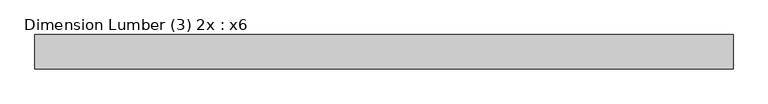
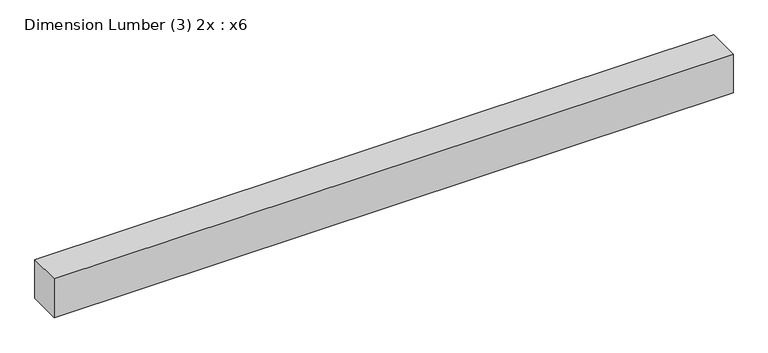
"""IFC4 building model written with IfcOpenShell, lengths in millimetres: beam geometry, Dimension Lumber (3) 2x : x6."""

from ifc_helpers import new_model, si_unit, frame, origin, place, context, project, spatial, polyline, outline, extrude, source, transform, mapped, element, save


def dimension_lumber_3_2x_x6_4cbae719(model_context):
    return source(origin(), model_context, "Body", "SweptSolid", [
        extrude(outline(polyline([(1154.0236, 57.15), (1154.0236, -57.15), (-1163.7264, -57.15), (-1163.7264, 57.15), (1154.0236, 57.15)])), frame((0.0, 0.0, -69.85), z_axis=(0.0, 0.0, 1.0), x_axis=(1.0, 0.0, 0.0)), (0.0, 0.0, 1.0), 139.7),
    ])


if __name__ == "__main__":
    model = new_model("IFC4")
    model_context = context("Model", 3, world=origin())
    ifc_project = project(units=[si_unit("LENGTHUNIT", "METRE", prefix="MILLI")], contexts=[model_context])
    site = spatial("IfcSite", under=ifc_project)
    building = spatial("IfcBuilding", under=site)
    placement = place(None, origin())
    dimension_lumber_3_2x_x6_shape = dimension_lumber_3_2x_x6_4cbae719(model_context)
    element("IfcBeam", 1, ObjectType="Dimension Lumber (3) 2x : x6", at=placement, inside=building, context=model_context, shape_type="MappedRepresentation", body=[
        mapped(dimension_lumber_3_2x_x6_shape, transform((0.0, 0.0, 0.0), x_axis=(1.0, 0.0, 0.0), y_axis=(0.0, 1.0, 0.0), z_axis=(0.0, 0.0, 1.0))),
    ])
    save(model, "model.ifc")
